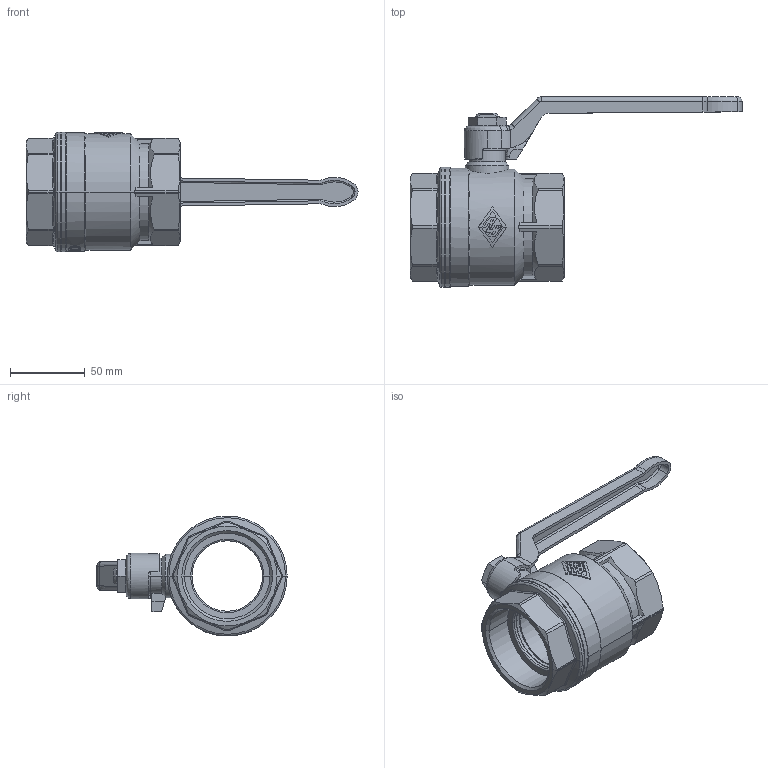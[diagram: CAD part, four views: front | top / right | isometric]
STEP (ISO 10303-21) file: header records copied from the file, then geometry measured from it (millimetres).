
FILE_DESCRIPTION(('OneSpaceDesigner STEP Export'),'2;1');
FILE_NAME('1500100000.stp','2007-10-06T10:31:26',(''),(''),'OneSpace Designer STEP processor for AP214 (Solid Model)','OneSpace Modeling 15.00B 25-Jun-2007 (C) CoCreate Software GmbH','');
FILE_SCHEMA(('AUTOMOTIVE_DESIGN { 1 0 10303 214 1 1 1 1 }'));
Length unit declared in the file: millimetre
Products named in the file (2): 1500100000
Assembly tree (1 placements, depth 2):
  1500100000
    1500100000
Bounding box: 221.5 x 127 x 80 mm (x, y, z)
Volume: 259525.4 mm3; surface area: 66885.4 mm2
Topology: 1 solids, 3 shells, 834 faces, 2274 edges, 1468 vertices
Faces by surface type: plane 497, cylinder 201, cone 69, torus 32, bspline 31, extrusion 4
Entity records: 42080 total; most frequent: CARTESIAN_POINT 20930, ORIENTED_EDGE 4542, DIRECTION 3830, EDGE_CURVE 2271, VERTEX_POINT 1468, AXIS2_PLACEMENT_3D 1410, VECTOR 1010, LINE 1006
